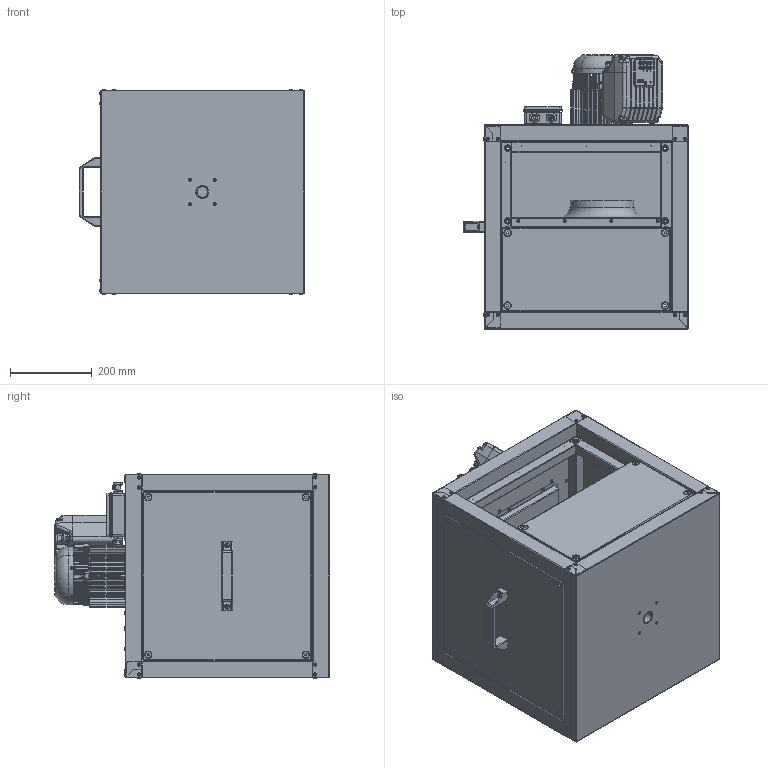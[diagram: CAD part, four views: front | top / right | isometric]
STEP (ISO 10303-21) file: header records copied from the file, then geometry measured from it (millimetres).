
FILE_DESCRIPTION (( 'STEP AP203' ), '1' );
FILE_NAME ('146175-00_MPC250ECTI30_step.step', '2018-07-03T13:25:49', ( '' ), ( '' ), 'SwSTEP 2.0', 'SolidWorks 2017', '' );
FILE_SCHEMA (( 'CONFIG_CONTROL_DESIGN' ));
Length unit declared in the file: millimetre
Products named in the file (2): 146175-00_MPC250ECTI30_step
Bounding box: 553.3 x 672.1 x 502.6 mm (x, y, z)
Surface area: 3621016.5 mm2 (no closed solid volume)
Topology: 0 solids, 366 shells, 2509 faces, 10495 edges, 8127 vertices
Faces by surface type: plane 948, cylinder 857, torus 330, bspline 211, cone 151, sphere 12
Entity records: 133800 total; most frequent: CARTESIAN_POINT 51635, DIRECTION 16665, ORIENTED_EDGE 14067, EDGE_CURVE 10489, VERTEX_POINT 8127, AXIS2_PLACEMENT_3D 5978, VECTOR 4709, LINE 4709
